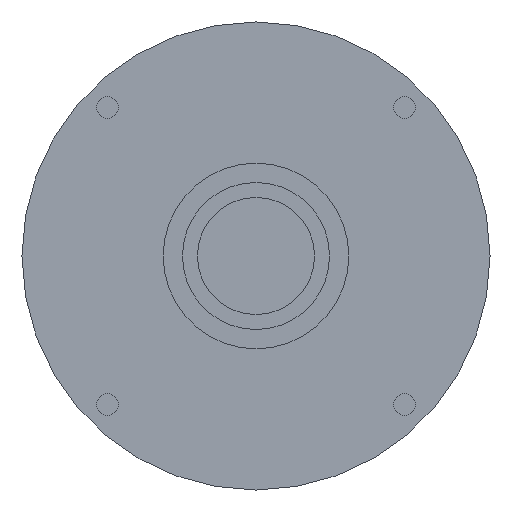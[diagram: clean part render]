
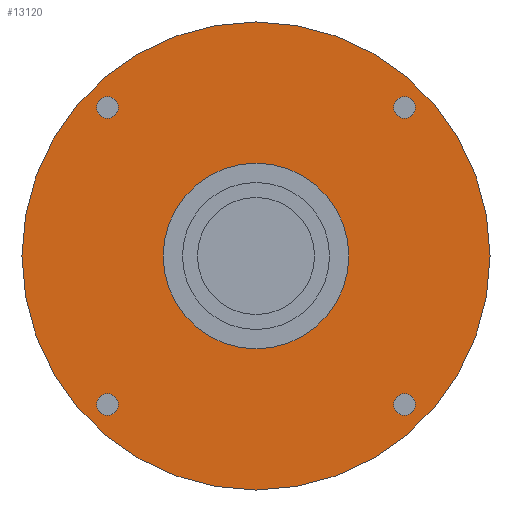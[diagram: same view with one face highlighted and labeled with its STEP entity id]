
A CAD part, left-side view. The second image highlights one B-rep face of the part: STEP entity #13120.
In plain terms, the highlighted planar face has unit normal (-1, 0, 0) as drawn and (0, 0, -1) by its records, which use the part's own axes.
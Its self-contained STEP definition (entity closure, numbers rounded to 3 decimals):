
#10310=CARTESIAN_POINT('',(-70.,0.,-84.701));
#10320=VERTEX_POINT('',#10310);
#10350=CARTESIAN_POINT('',(0.,0.,
-84.701));
#10360=DIRECTION('',(0.,0.,-1.));
#10370=DIRECTION('',(0.,-1.,0.));
#10380=AXIS2_PLACEMENT_3D('',#10350,#10360,#10370);
#10390=CIRCLE('',#10380,70.);
#10400=CARTESIAN_POINT('',(70.,0.,-84.701));
#10410=VERTEX_POINT('',#10400);
#10420=EDGE_CURVE('',#10320,#10410,#10390,.T.);
#12100=CARTESIAN_POINT('',(44.449,41.199,-84.701));
#12110=VERTEX_POINT('',#12100);
#12140=CARTESIAN_POINT('',(44.449,44.449,-84.701));
#12150=DIRECTION('',(0.,0.,-1.));
#12160=DIRECTION('',(0.,1.,0.));
#12170=AXIS2_PLACEMENT_3D('',#12140,#12150,#12160);
#12180=CIRCLE('',#12170,3.25);
#12190=CARTESIAN_POINT('',(44.449,47.699,-84.701));
#12200=VERTEX_POINT('',#12190);
#12210=EDGE_CURVE('',#12200,#12110,#12180,.T.);
#12330=CARTESIAN_POINT('',(0.,0.,
-84.701));
#12340=DIRECTION('',(0.,0.,-1.));
#12350=DIRECTION('',(1.,0.,0.));
#12360=AXIS2_PLACEMENT_3D('',#12330,#12340,#12350);
#12370=PLANE('',#12360);
#12380=ORIENTED_EDGE('',*,*,#12210,.F.);
#12390=EDGE_CURVE('',#12110,#12200,#12180,.T.);
#12400=ORIENTED_EDGE('',*,*,#12390,.F.);
#12410=EDGE_LOOP('',(#12400,#12380));
#12420=FACE_BOUND('',#12410,.T.);
#12430=CARTESIAN_POINT('',(-44.449,44.449,-84.701));
#12440=DIRECTION('',(0.,0.,-1.));
#12450=DIRECTION('',(-1.,0.,0.));
#12460=AXIS2_PLACEMENT_3D('',#12430,#12440,#12450);
#12470=CIRCLE('',#12460,3.25);
#12480=CARTESIAN_POINT('',(-47.699,44.449,-84.701));
#12490=VERTEX_POINT('',#12480);
#12500=CARTESIAN_POINT('',(-41.199,44.449,-84.701));
#12510=VERTEX_POINT('',#12500);
#12520=EDGE_CURVE('',#12490,#12510,#12470,.T.);
#12530=ORIENTED_EDGE('',*,*,#12520,.F.);
#12540=EDGE_CURVE('',#12510,#12490,#12470,.T.);
#12550=ORIENTED_EDGE('',*,*,#12540,.F.);
#12560=EDGE_LOOP('',(#12550,#12530));
#12570=FACE_BOUND('',#12560,.T.);
#12580=CARTESIAN_POINT('',(-44.449,-44.449,-84.701))
;
#12590=DIRECTION('',(0.,0.,-1.));
#12600=DIRECTION('',(0.,-1.,0.));
#12610=AXIS2_PLACEMENT_3D('',#12580,#12590,#12600);
#12620=CIRCLE('',#12610,3.25);
#12630=CARTESIAN_POINT('',(-44.449,-47.699,-84.701))
;
#12640=VERTEX_POINT('',#12630);
#12650=CARTESIAN_POINT('',(-44.449,-41.199,-84.701))
;
#12660=VERTEX_POINT('',#12650);
#12670=EDGE_CURVE('',#12640,#12660,#12620,.T.);
#12680=ORIENTED_EDGE('',*,*,#12670,.F.);
#12690=EDGE_CURVE('',#12660,#12640,#12620,.T.);
#12700=ORIENTED_EDGE('',*,*,#12690,.F.);
#12710=EDGE_LOOP('',(#12700,#12680));
#12720=FACE_BOUND('',#12710,.T.);
#12730=CARTESIAN_POINT('',(0.,0.,
-84.701));
#12740=DIRECTION('',(0.,0.,-1.));
#12750=DIRECTION('',(0.,1.,0.));
#12760=AXIS2_PLACEMENT_3D('',#12730,#12740,#12750);
#12770=CIRCLE('',#12760,27.76);
#12780=CARTESIAN_POINT('',(0.,27.76,-84.701));
#12790=VERTEX_POINT('',#12780);
#12800=CARTESIAN_POINT('',(0.,-27.76,-84.701));
#12810=VERTEX_POINT('',#12800);
#12820=EDGE_CURVE('',#12790,#12810,#12770,.T.);
#12830=ORIENTED_EDGE('',*,*,#12820,.F.);
#12840=EDGE_CURVE('',#12810,#12790,#12770,.T.);
#12850=ORIENTED_EDGE('',*,*,#12840,.F.);
#12860=EDGE_LOOP('',(#12850,#12830));
#12870=FACE_BOUND('',#12860,.T.);
#12880=CARTESIAN_POINT('',(44.449,-44.449,-84.701));
#12890=DIRECTION('',(0.,0.,-1.));
#12900=DIRECTION('',(1.,0.,0.));
#12910=AXIS2_PLACEMENT_3D('',#12880,#12890,#12900);
#12920=CIRCLE('',#12910,3.25);
#12930=CARTESIAN_POINT('',(47.699,-44.449,-84.701));
#12940=VERTEX_POINT('',#12930);
#12950=CARTESIAN_POINT('',(41.199,-44.449,-84.701));
#12960=VERTEX_POINT('',#12950);
#12970=EDGE_CURVE('',#12940,#12960,#12920,.T.);
#12980=ORIENTED_EDGE('',*,*,#12970,.F.);
#12990=EDGE_CURVE('',#12960,#12940,#12920,.T.);
#13000=ORIENTED_EDGE('',*,*,#12990,.F.);
#13010=EDGE_LOOP('',(#13000,#12980));
#13020=FACE_BOUND('',#13010,.T.);
#13030=ORIENTED_EDGE('',*,*,#10420,.T.);
#13040=CARTESIAN_POINT('',(0.,-70.,-84.701));
#13050=VERTEX_POINT('',#13040);
#13060=EDGE_CURVE('',#13050,#10320,#10390,.T.);
#13070=ORIENTED_EDGE('',*,*,#13060,.T.);
#13080=EDGE_CURVE('',#10410,#13050,#10390,.T.);
#13090=ORIENTED_EDGE('',*,*,#13080,.T.);
#13100=EDGE_LOOP('',(#13090,#13070,#13030));
#13110=FACE_OUTER_BOUND('',#13100,.T.);
#13120=ADVANCED_FACE('',(#12420,#12570,#12720,#12870,#13020,#13110),
#12370,.T.);
